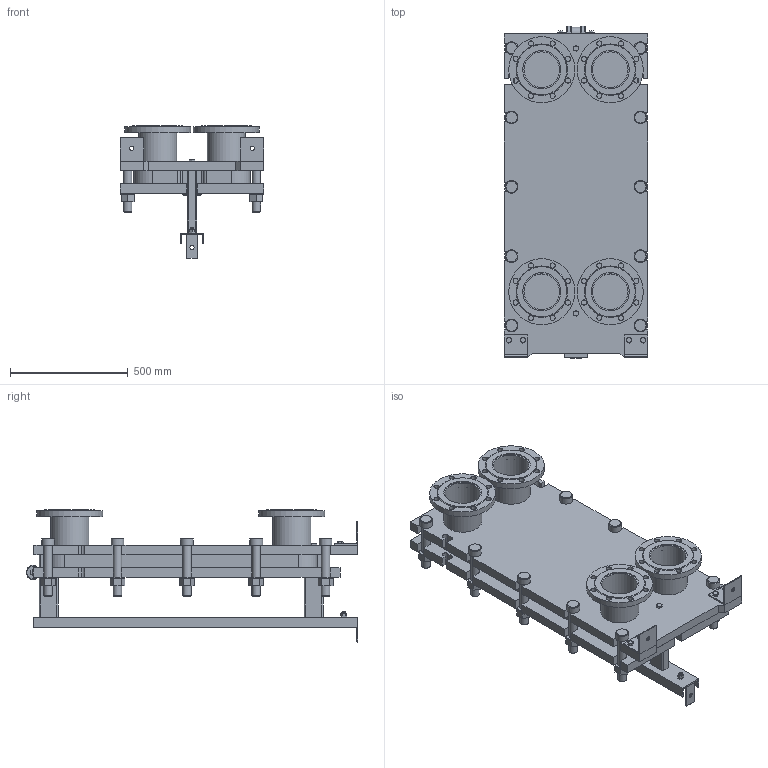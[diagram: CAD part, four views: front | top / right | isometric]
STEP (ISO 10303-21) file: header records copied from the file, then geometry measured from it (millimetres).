
FILE_DESCRIPTION(/* description */ (''),/* implementation_level */ '2;1');
FILE_NAME(/* name */ 'C:\Users\zhuro\Desktop\ENCO\TO\ЭН-041\ЭН-0,5-041-16-1.stp',/* time_stamp */ '2022-06-06T10:49:16+03:00',/* author */ ('zhuro'),/* organization */ (''),/* preprocessor_version */ 'ST-DEVELOPER v18.1',/* originating_system */ 'Autodesk Inventor 2022',/* authorisation */ '');
FILE_SCHEMA (('AUTOMOTIVE_DESIGN { 1 0 10303 214 3 1 1 }'));
Length unit declared in the file: millimetre
Products named in the file (1): ЭН-0,5-041-16-1
Bounding box: 610 x 1406.5 x 560 mm (x, y, z)
Volume: 105616794.8 mm3; surface area: 7172380 mm2
Topology: 52 solids, 52 shells, 711 faces, 1696 edges, 1094 vertices
Faces by surface type: plane 487, cylinder 177, cone 41, torus 6
Full cylindrical faces by diameter (mm): 8 x4, 10 x2, 16 x8, 18 x3, 22 x32, 36 x24, 50 x1, 54 x10, 60 x12, 151 x4, 161 x8, 280 x4
Entity records: 22667 total; most frequent: CARTESIAN_POINT 5230, DIRECTION 3644, ORIENTED_EDGE 3392, EDGE_CURVE 1696, AXIS2_PLACEMENT_3D 1272, LINE 1100, VECTOR 1100, VERTEX_POINT 1094
